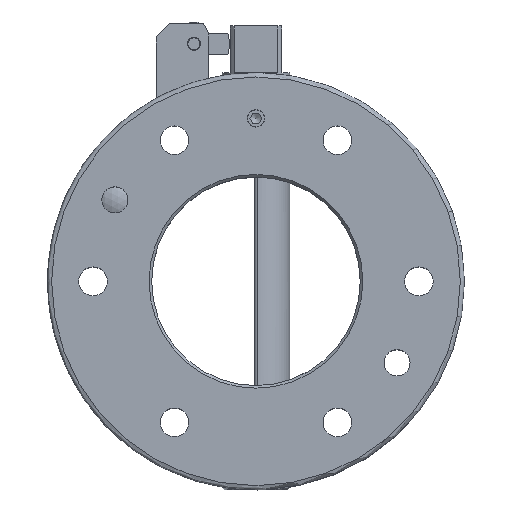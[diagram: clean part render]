
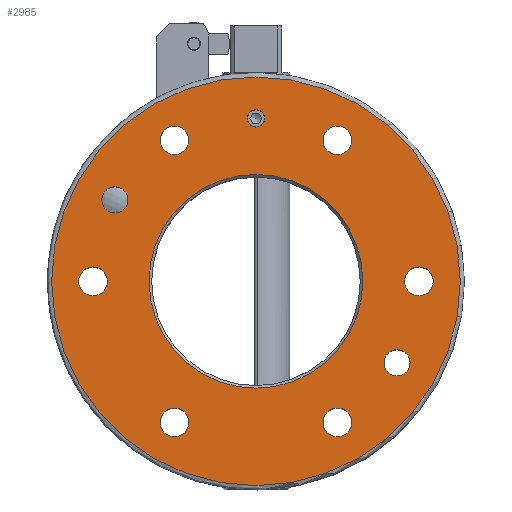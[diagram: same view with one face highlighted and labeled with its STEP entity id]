
A CAD part, top view. The second image highlights one B-rep face of the part: STEP entity #2985.
In plain terms, the highlighted planar face has unit normal (0, 0, 1).
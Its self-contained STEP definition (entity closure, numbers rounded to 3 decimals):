
#101=FACE_BOUND('',#942,.T.);
#102=FACE_BOUND('',#943,.T.);
#103=FACE_BOUND('',#944,.T.);
#104=FACE_BOUND('',#945,.T.);
#105=FACE_BOUND('',#946,.T.);
#106=FACE_BOUND('',#947,.T.);
#107=FACE_BOUND('',#948,.T.);
#108=FACE_BOUND('',#949,.T.);
#109=FACE_BOUND('',#950,.T.);
#110=FACE_BOUND('',#951,.T.);
#111=FACE_BOUND('',#952,.T.);
#580=PLANE('',#3251);
#942=EDGE_LOOP('',(#2153));
#943=EDGE_LOOP('',(#2154));
#944=EDGE_LOOP('',(#2155));
#945=EDGE_LOOP('',(#2156));
#946=EDGE_LOOP('',(#2157));
#947=EDGE_LOOP('',(#2158));
#948=EDGE_LOOP('',(#2159));
#949=EDGE_LOOP('',(#2160));
#950=EDGE_LOOP('',(#2161));
#951=EDGE_LOOP('',(#2162));
#952=EDGE_LOOP('',(#2163));
#1155=CIRCLE('',#3170,5.);
#1157=CIRCLE('',#3173,5.);
#1169=CIRCLE('',#3197,5.5);
#1175=CIRCLE('',#3208,5.5);
#1179=CIRCLE('',#3215,5.5);
#1183=CIRCLE('',#3222,5.5);
#1187=CIRCLE('',#3229,5.5);
#1191=CIRCLE('',#3236,5.5);
#1196=CIRCLE('',#3244,41.);
#1200=CIRCLE('',#3252,3.324);
#1201=CIRCLE('',#3253,78.4);
#1367=VERTEX_POINT('',#4566);
#1369=VERTEX_POINT('',#4571);
#1394=VERTEX_POINT('',#4731);
#1405=VERTEX_POINT('',#4768);
#1409=VERTEX_POINT('',#4779);
#1413=VERTEX_POINT('',#4790);
#1417=VERTEX_POINT('',#4802);
#1421=VERTEX_POINT('',#4813);
#1426=VERTEX_POINT('',#4826);
#1432=VERTEX_POINT('',#4880);
#1433=VERTEX_POINT('',#4882);
#1648=EDGE_CURVE('',#1367,#1367,#1155,.T.);
#1650=EDGE_CURVE('',#1369,#1369,#1157,.T.);
#1675=EDGE_CURVE('',#1394,#1394,#1169,.T.);
#1687=EDGE_CURVE('',#1405,#1405,#1175,.T.);
#1691=EDGE_CURVE('',#1409,#1409,#1179,.T.);
#1695=EDGE_CURVE('',#1413,#1413,#1183,.T.);
#1700=EDGE_CURVE('',#1417,#1417,#1187,.T.);
#1704=EDGE_CURVE('',#1421,#1421,#1191,.T.);
#1709=EDGE_CURVE('',#1426,#1426,#1196,.T.);
#1717=EDGE_CURVE('',#1432,#1432,#1200,.T.);
#1718=EDGE_CURVE('',#1433,#1433,#1201,.T.);
#2153=ORIENTED_EDGE('',*,*,#1709,.F.);
#2154=ORIENTED_EDGE('',*,*,#1704,.T.);
#2155=ORIENTED_EDGE('',*,*,#1700,.T.);
#2156=ORIENTED_EDGE('',*,*,#1695,.T.);
#2157=ORIENTED_EDGE('',*,*,#1691,.T.);
#2158=ORIENTED_EDGE('',*,*,#1687,.T.);
#2159=ORIENTED_EDGE('',*,*,#1675,.T.);
#2160=ORIENTED_EDGE('',*,*,#1650,.T.);
#2161=ORIENTED_EDGE('',*,*,#1648,.T.);
#2162=ORIENTED_EDGE('',*,*,#1717,.T.);
#2163=ORIENTED_EDGE('',*,*,#1718,.F.);
#2985=ADVANCED_FACE('',(#101,#102,#103,#104,#105,#106,#107,#108,#109,#110,
#111),#580,.F.);
#3170=AXIS2_PLACEMENT_3D('',#4567,#3563,#3564);
#3173=AXIS2_PLACEMENT_3D('',#4572,#3569,#3570);
#3197=AXIS2_PLACEMENT_3D('',#4732,#3621,#3622);
#3208=AXIS2_PLACEMENT_3D('',#4769,#3648,#3649);
#3215=AXIS2_PLACEMENT_3D('',#4780,#3662,#3663);
#3222=AXIS2_PLACEMENT_3D('',#4791,#3676,#3677);
#3229=AXIS2_PLACEMENT_3D('',#4803,#3691,#3692);
#3236=AXIS2_PLACEMENT_3D('',#4814,#3705,#3706);
#3244=AXIS2_PLACEMENT_3D('',#4827,#3721,#3722);
#3251=AXIS2_PLACEMENT_3D('',#4879,#3735,#3736);
#3252=AXIS2_PLACEMENT_3D('',#4881,#3737,#3738);
#3253=AXIS2_PLACEMENT_3D('',#4883,#3739,#3740);
#3563=DIRECTION('center_axis',(0.,0.,-1.));
#3564=DIRECTION('ref_axis',(1.,0.,0.));
#3569=DIRECTION('center_axis',(0.,0.,-1.));
#3570=DIRECTION('ref_axis',(1.,0.,0.));
#3621=DIRECTION('center_axis',(0.,0.,-1.));
#3622=DIRECTION('ref_axis',(-1.,0.,0.));
#3648=DIRECTION('center_axis',(0.,0.,-1.));
#3649=DIRECTION('ref_axis',(-0.5,0.866,0.));
#3662=DIRECTION('center_axis',(0.,0.,-1.));
#3663=DIRECTION('ref_axis',(0.5,0.866,0.));
#3676=DIRECTION('center_axis',(0.,0.,-1.));
#3677=DIRECTION('ref_axis',(1.,0.,0.));
#3691=DIRECTION('center_axis',(0.,0.,-1.));
#3692=DIRECTION('ref_axis',(0.5,-0.866,0.));
#3705=DIRECTION('center_axis',(0.,0.,-1.));
#3706=DIRECTION('ref_axis',(-0.5,-0.866,0.));
#3721=DIRECTION('center_axis',(0.,0.,1.));
#3722=DIRECTION('ref_axis',(-1.,0.,0.));
#3735=DIRECTION('center_axis',(0.,0.,-1.));
#3736=DIRECTION('ref_axis',(-1.,0.,0.));
#3737=DIRECTION('center_axis',(0.,0.,-1.));
#3738=DIRECTION('ref_axis',(1.,0.,0.));
#3739=DIRECTION('center_axis',(0.,0.,-1.));
#3740=DIRECTION('ref_axis',(-1.,0.,0.));
#4566=CARTESIAN_POINT('',(59.127,-31.25,0.));
#4567=CARTESIAN_POINT('Origin',(54.127,-31.25,0.));
#4571=CARTESIAN_POINT('',(-49.127,31.25,0.));
#4572=CARTESIAN_POINT('Origin',(-54.127,31.25,0.));
#4731=CARTESIAN_POINT('',(-57.,0.,0.));
#4732=CARTESIAN_POINT('Origin',(-62.5,0.,0.));
#4768=CARTESIAN_POINT('',(-28.5,49.363,0.));
#4769=CARTESIAN_POINT('Origin',(-31.25,54.127,0.));
#4779=CARTESIAN_POINT('',(28.5,49.363,0.));
#4780=CARTESIAN_POINT('Origin',(31.25,54.127,0.));
#4790=CARTESIAN_POINT('',(57.,0.,0.));
#4791=CARTESIAN_POINT('Origin',(62.5,0.,0.));
#4802=CARTESIAN_POINT('',(28.5,-49.363,0.));
#4803=CARTESIAN_POINT('Origin',(31.25,-54.127,0.));
#4813=CARTESIAN_POINT('',(-28.5,-49.363,0.));
#4814=CARTESIAN_POINT('Origin',(-31.25,-54.127,0.));
#4826=CARTESIAN_POINT('',(41.,0.,0.));
#4827=CARTESIAN_POINT('Origin',(0.,0.,0.));
#4879=CARTESIAN_POINT('Origin',(0.,0.,0.));
#4880=CARTESIAN_POINT('',(3.324,62.5,0.));
#4881=CARTESIAN_POINT('Origin',(0.,62.5,0.));
#4882=CARTESIAN_POINT('',(78.4,0.,0.));
#4883=CARTESIAN_POINT('Origin',(0.,0.,0.));
